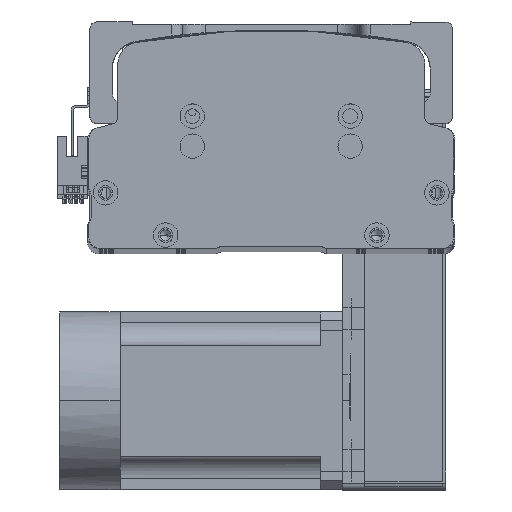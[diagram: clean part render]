
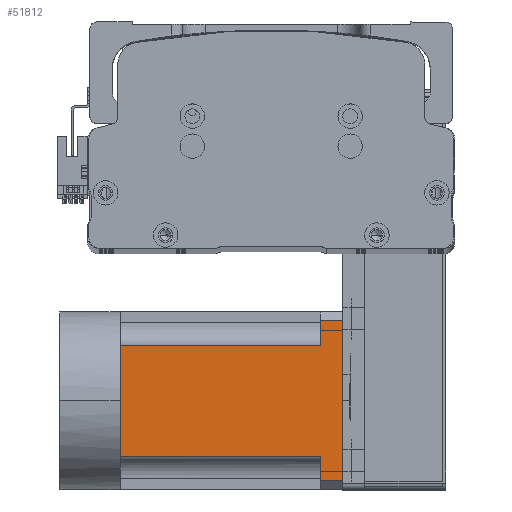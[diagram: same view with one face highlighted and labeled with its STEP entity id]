
A CAD part, top view. The second image highlights one B-rep face of the part: STEP entity #51812.
In plain terms, the highlighted planar face has unit normal (0, 0, 1) as drawn and (0, 0, -1) by its records, which use the part's own axes.
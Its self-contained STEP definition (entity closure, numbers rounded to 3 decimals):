
#82 = CARTESIAN_POINT ( 'NONE',  ( -36., 100., -40. ) ) ;
#138 = VECTOR ( 'NONE', #49057, 1000. ) ;
#841 = VECTOR ( 'NONE', #13053, 1000. ) ;
#3126 = EDGE_CURVE ( 'NONE', #6824, #58337, #59057, .T. ) ;
#3353 = ORIENTED_EDGE ( 'NONE', *, *, #43318, .T. ) ;
#4270 = VERTEX_POINT ( 'NONE', #17783 ) ;
#4356 = VECTOR ( 'NONE', #38484, 1000. ) ;
#6824 = VERTEX_POINT ( 'NONE', #46238 ) ;
#7360 = VERTEX_POINT ( 'NONE', #25666 ) ;
#9058 = DIRECTION ( 'NONE',  ( 0., 1., 0. ) ) ;
#9914 = CARTESIAN_POINT ( 'NONE',  ( 36., 100., -40. ) ) ;
#10017 = DIRECTION ( 'NONE',  ( -1., 0., 0. ) ) ;
#11963 = VECTOR ( 'NONE', #54888, 1000. ) ;
#12079 = EDGE_CURVE ( 'NONE', #4270, #15425, #25081, .T. ) ;
#12926 = DIRECTION ( 'NONE',  ( 0., 1., 0. ) ) ;
#13053 = DIRECTION ( 'NONE',  ( -1., 0., 0. ) ) ;
#13993 = ORIENTED_EDGE ( 'NONE', *, *, #55248, .T. ) ;
#14479 = AXIS2_PLACEMENT_3D ( 'NONE', #42139, #21811, #57554 ) ;
#15064 = EDGE_CURVE ( 'NONE', #7360, #4270, #63993, .T. ) ;
#15352 = LINE ( 'NONE', #58951, #138 ) ;
#15425 = VERTEX_POINT ( 'NONE', #22775 ) ;
#17783 = CARTESIAN_POINT ( 'NONE',  ( 0., 0., -40. ) ) ;
#21811 = DIRECTION ( 'NONE',  ( 0., 0., -1. ) ) ;
#22775 = CARTESIAN_POINT ( 'NONE',  ( -25., 0., -40. ) ) ;
#22783 = VERTEX_POINT ( 'NONE', #64698 ) ;
#23615 = CARTESIAN_POINT ( 'NONE',  ( -40., 0., -40. ) ) ;
#23791 = ORIENTED_EDGE ( 'NONE', *, *, #60260, .T. ) ;
#23966 = VECTOR ( 'NONE', #38448, 1000. ) ;
#24548 = EDGE_CURVE ( 'NONE', #43459, #40726, #55226, .T. ) ;
#25081 = LINE ( 'NONE', #23615, #62637 ) ;
#25562 = LINE ( 'NONE', #63933, #23966 ) ;
#25666 = CARTESIAN_POINT ( 'NONE',  ( 25., 0., -40. ) ) ;
#27278 = EDGE_CURVE ( 'NONE', #15425, #22783, #41207, .T. ) ;
#28546 = CARTESIAN_POINT ( 'NONE',  ( -40., 90., -40. ) ) ;
#28618 = CARTESIAN_POINT ( 'NONE',  ( 25., 90., -40. ) ) ;
#29085 = EDGE_CURVE ( 'NONE', #39397, #58337, #15352, .T. ) ;
#31892 = VECTOR ( 'NONE', #12926, 1000. ) ;
#32282 = ORIENTED_EDGE ( 'NONE', *, *, #3126, .T. ) ;
#33356 = CARTESIAN_POINT ( 'NONE',  ( 25., -27., -40. ) ) ;
#33566 = ORIENTED_EDGE ( 'NONE', *, *, #24548, .T. ) ;
#36810 = VECTOR ( 'NONE', #10017, 1000. ) ;
#38448 = DIRECTION ( 'NONE',  ( 0., -1., 0. ) ) ;
#38484 = DIRECTION ( 'NONE',  ( 0., -1., 0. ) ) ;
#38519 = CARTESIAN_POINT ( 'NONE',  ( -40., 90., -40. ) ) ;
#38798 = DIRECTION ( 'NONE',  ( -1., 0., 0. ) ) ;
#39159 = ORIENTED_EDGE ( 'NONE', *, *, #15064, .T. ) ;
#39397 = VERTEX_POINT ( 'NONE', #9914 ) ;
#39626 = VECTOR ( 'NONE', #9058, 1000. ) ;
#40626 = CARTESIAN_POINT ( 'NONE',  ( -40., 0., -40. ) ) ;
#40726 = VERTEX_POINT ( 'NONE', #28618 ) ;
#41207 = LINE ( 'NONE', #65156, #39626 ) ;
#42139 = CARTESIAN_POINT ( 'NONE',  ( -40., -27., -40. ) ) ;
#42862 = ORIENTED_EDGE ( 'NONE', *, *, #12079, .T. ) ;
#43318 = EDGE_CURVE ( 'NONE', #39397, #43459, #25562, .T. ) ;
#43459 = VERTEX_POINT ( 'NONE', #65481 ) ;
#43479 = CARTESIAN_POINT ( 'NONE',  ( -36., -27., -40. ) ) ;
#45384 = EDGE_LOOP ( 'NONE', ( #58232, #3353, #33566, #23791, #39159, #42862, #62310, #13993, #32282 ) ) ;
#46238 = CARTESIAN_POINT ( 'NONE',  ( -36., 90., -40. ) ) ;
#46701 = LINE ( 'NONE', #33356, #4356 ) ;
#49057 = DIRECTION ( 'NONE',  ( -1., 0., 0. ) ) ;
#51687 = FACE_OUTER_BOUND ( 'NONE', #45384, .T. ) ;
#51812 = ADVANCED_FACE ( 'NONE', ( #51687 ), #52417, .T. ) ;
#52417 = PLANE ( 'NONE',  #14479 ) ;
#54888 = DIRECTION ( 'NONE',  ( -1., 0., 0. ) ) ;
#55226 = LINE ( 'NONE', #38519, #841 ) ;
#55248 = EDGE_CURVE ( 'NONE', #22783, #6824, #66332, .T. ) ;
#57554 = DIRECTION ( 'NONE',  ( -1., 0., 0. ) ) ;
#58232 = ORIENTED_EDGE ( 'NONE', *, *, #29085, .F. ) ;
#58337 = VERTEX_POINT ( 'NONE', #82 ) ;
#58951 = CARTESIAN_POINT ( 'NONE',  ( -40., 100., -40. ) ) ;
#59057 = LINE ( 'NONE', #43479, #31892 ) ;
#60260 = EDGE_CURVE ( 'NONE', #40726, #7360, #46701, .T. ) ;
#62310 = ORIENTED_EDGE ( 'NONE', *, *, #27278, .T. ) ;
#62637 = VECTOR ( 'NONE', #38798, 1000. ) ;
#63933 = CARTESIAN_POINT ( 'NONE',  ( 36., -27., -40. ) ) ;
#63993 = LINE ( 'NONE', #40626, #36810 ) ;
#64698 = CARTESIAN_POINT ( 'NONE',  ( -25., 90., -40. ) ) ;
#65156 = CARTESIAN_POINT ( 'NONE',  ( -25., -27., -40. ) ) ;
#65481 = CARTESIAN_POINT ( 'NONE',  ( 36., 90., -40. ) ) ;
#66332 = LINE ( 'NONE', #28546, #11963 ) ;
